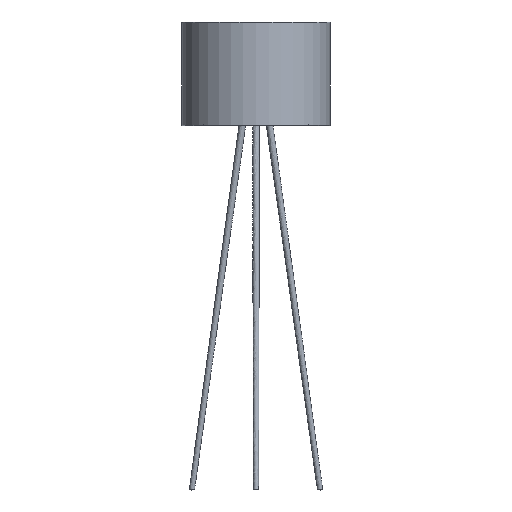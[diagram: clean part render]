
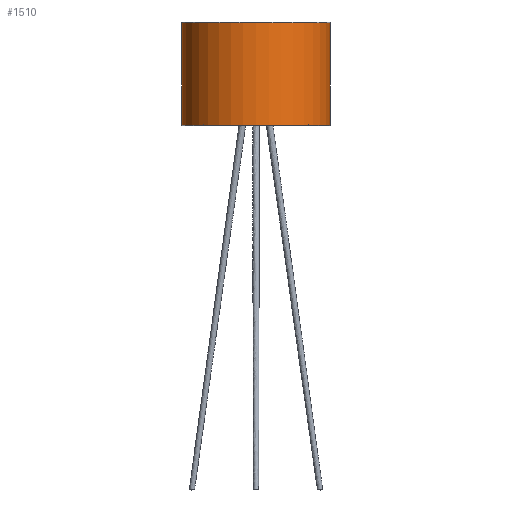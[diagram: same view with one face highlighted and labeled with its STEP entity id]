
A CAD part, top view. The second image highlights one B-rep face of the part: STEP entity #1510.
In plain terms, the highlighted cylindrical face has radius 250 mm (diameter 500 mm), a full revolution.
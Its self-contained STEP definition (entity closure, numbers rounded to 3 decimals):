
#161=LINE('',#13024,#201);
#201=VECTOR('',#2042,250.);
#246=CYLINDRICAL_SURFACE('',#1702,250.);
#377=FACE_OUTER_BOUND('',#502,.T.);
#502=EDGE_LOOP('',(#1249,#1250,#1251,#1252));
#594=CIRCLE('',#1699,250.);
#596=CIRCLE('',#1703,250.);
#748=VERTEX_POINT('',#13016);
#750=VERTEX_POINT('',#13023);
#924=EDGE_CURVE('',#748,#748,#594,.T.);
#926=EDGE_CURVE('',#748,#750,#161,.T.);
#927=EDGE_CURVE('',#750,#750,#596,.T.);
#1249=ORIENTED_EDGE('',*,*,#924,.F.);
#1250=ORIENTED_EDGE('',*,*,#926,.T.);
#1251=ORIENTED_EDGE('',*,*,#927,.F.);
#1252=ORIENTED_EDGE('',*,*,#926,.F.);
#1510=ADVANCED_FACE('',(#377),#246,.T.);
#1699=AXIS2_PLACEMENT_3D('',#13018,#2034,#2035);
#1702=AXIS2_PLACEMENT_3D('',#13022,#2040,#2041);
#1703=AXIS2_PLACEMENT_3D('',#13025,#2043,#2044);
#2034=DIRECTION('center_axis',(0.,0.,1.));
#2035=DIRECTION('ref_axis',(1.,0.,0.));
#2040=DIRECTION('center_axis',(0.,0.,1.));
#2041=DIRECTION('ref_axis',(1.,0.,0.));
#2042=DIRECTION('',(0.,0.,-1.));
#2043=DIRECTION('center_axis',(0.,0.,-1.));
#2044=DIRECTION('ref_axis',(1.,0.,0.));
#13016=CARTESIAN_POINT('',(-250.,0.,348.));
#13018=CARTESIAN_POINT('Origin',(0.,0.,348.));
#13022=CARTESIAN_POINT('Origin',(0.,0.,0.));
#13023=CARTESIAN_POINT('',(-250.,0.,2.));
#13024=CARTESIAN_POINT('',(-250.,0.,0.));
#13025=CARTESIAN_POINT('Origin',(0.,0.,2.));
